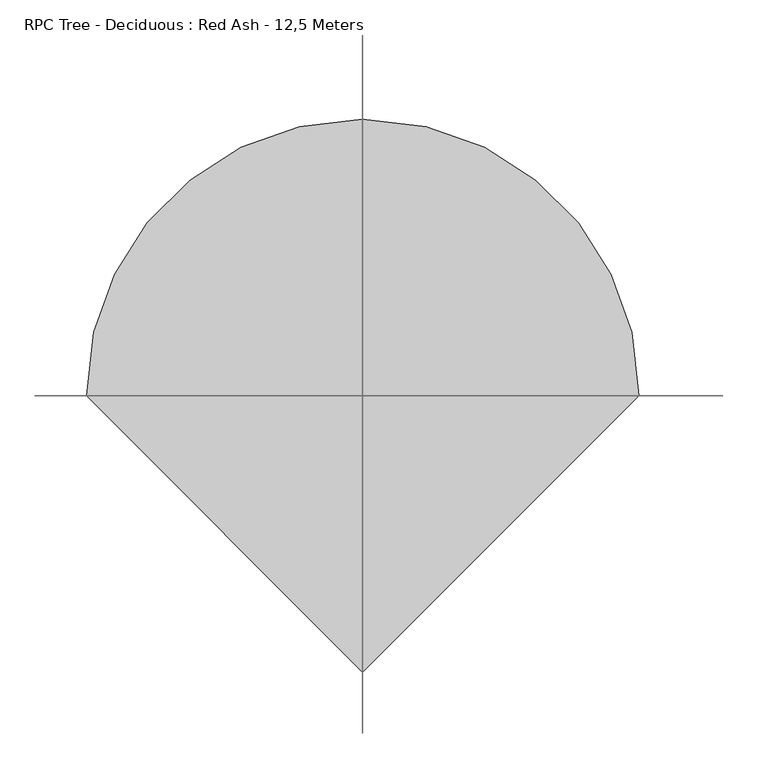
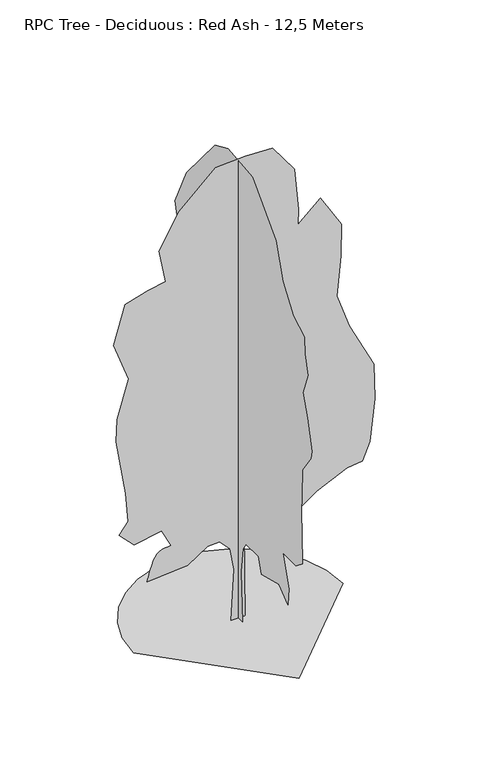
"""IFC4 building model written with IfcOpenShell, lengths in millimetres: geographic element geometry, RPC Tree - Deciduous : Red Ash - 12,5 Meters."""

from ifc_helpers import new_model, si_unit, origin, place, context, project, spatial, triangles, source, transform, mapped, element, save


def rpc_tree_deciduous_red_ash_12_5_meters_f1622f8d(model_context):
    return source(origin(), model_context, "Body", "Tessellation", [
        triangles([(-2698.4129082, 0.0, 0.0001015), (-2627.0754021, 618.2977976, 0.0001015), (-2423.908152, 1186.1054358, 0.0001015), (-2105.1777523, 1687.1544308, 0.0001015), (-1687.1547215, 2105.1781883, 0.0001015), (-1186.1051451, 2423.9075706, 0.0001015), (-618.2975069, 2627.0754021, 0.0001015), (0.000118, 2698.4129082, 0.0001015), (618.2978703, 2627.0754021, 0.0001015), (1186.1055084, 2423.9080067, 0.0001015), (1687.1547215, 2105.1777523, 0.0001015), (2105.1786243, 1687.1547215, 0.0001015), (2423.907716, 1186.1050724, 0.0001015), (2627.0754021, 618.2974342, 0.0001015), (2698.4129082, -0.0002359, 0.0001015), (-0.0003539, -2698.4129082, 0.0001015), (-1.76e-05, 168.7110502, 0.0), (4.11e-05, 166.0871369, 1959.5703609), (5.3e-05, 213.0609594, 2522.6425323), (1.1e-06, 719.8579502, 2556.045726), (-9.48e-05, 1601.6917694, 2425.0441292), (-0.0002305, 3122.8556053, 3196.6487755), (-0.0002318, 3299.2224564, 3769.841114), (-0.0002232, 3519.6810928, 4828.0419296), (-0.0001835, 3453.5438507, 5930.3345306), (-9.53e-05, 2854.9574226, 6793.0074554), (-9.1e-06, 2505.5752602, 8465.6082687), (-5.8e-06, 2814.2145607, 9656.0844406), (7.87e-05, 2307.1604816, 10714.2855469), (0.0002574, 1028.5012476, 12235.4496735), (0.0003257, 448.1638873, 12497.0383575), (0.0004367, -646.9842733, 12389.7716492), (0.000512, -1683.1395596, 11287.4784668), (0.0005166, -1991.7819122, 10361.5524261), (0.0005451, -2454.7428978, 9700.1765167), (0.0005901, -2961.7997383, 9435.6263855), (0.0005793, -2983.8454857, 8994.7085312), (0.000578, -3116.120842, 8487.6545975), (0.0005373, -2895.6622055, 7892.4165115), (0.0005409, -3094.0750946, 7319.224173), (0.0005379, -3292.487693, 6525.5737793), (0.0005267, -3248.3961983, 6305.1145615), (0.0004719, -2873.6167488, 5776.0137177), (0.0004477, -2849.9205208, 5048.5005661), (0.0004318, -2829.5246727, 4585.5378365), (0.000417, -2851.5707108, 4012.3460793), (0.0003957, -2873.6170395, 3218.6953949), (0.0003562, -2564.9745415, 2976.1907204), (0.0002965, -1991.7826389, 2976.1907204), (0.0002997, -2256.3329155, 2160.493998), (0.0002813, -2212.0982609, 1697.6452148), (0.0002488, -1809.4341763, 2014.1673191), (0.0001618, -1032.5831205, 1815.4652035), (0.0001607, -905.0390888, 2226.1498741), (0.0001031, -354.1876104, 2221.1328838), (8.24e-05, -214.5689524, 2014.9844204), (5.36e-05, -130.4943149, 1342.3279495), (1.92e-05, -183.9993612, 2.1e-05), (-181.8747816, -8e-06, 7.31e-05), (-109.4348355, 0.0001582, 1367.2927048), (-212.1182662, 0.000223, 1948.7262554), (-477.0142339, 0.0002461, 2239.6943962), (-793.3669081, 0.000231, 2228.8325592), (-1306.2135841, 0.0001689, 1895.9438667), (-2342.3687977, 0.0001131, 1807.7605865), (-2328.0358063, 0.0001205, 1864.7714962), (-2312.7386295, 0.0001282, 1923.7103405), (-2295.5135181, 0.0001365, 1986.5053448), (-2275.3957054, 0.0001455, 2055.0858971), (-2251.4220234, 0.0001557, 2131.3774612), (-2222.6274147, 0.0001672, 2217.3120415), (-2188.0482754, 0.0001803, 2314.8148109), (-2144.4708481, 0.000193, 2405.2480991), (-2090.4808296, 0.0002032, 2471.3854866), (-2027.8140152, 0.0002114, 2517.2762901), (-1958.2054733, 0.000218, 2546.9715706), (-1883.3911446, 0.0002234, 2564.5175926), (-1805.1055161, 0.0002279, 2573.9658531), (-1725.0846737, 0.0002321, 2579.3652328), (-1967.5889122, 0.0002793, 3064.3740005), (-2673.0566071, 0.0002327, 2932.0986443), (-3069.8815132, 0.0002626, 3328.9247131), (-2827.3771294, 0.0003074, 3615.5208824), (-2893.5143715, 0.0003991, 4409.1718575), (-3136.0187553, 0.0005646, 5886.2430359), (-3114.3058365, 0.0006385, 6497.9748825), (-2821.387088, 0.000769, 7485.7704025), (-3202.1565788, 0.0008771, 8531.7455109), (-2915.5601189, 0.0010105, 9545.8557037), (-2320.3226143, 0.0010576, 9722.2222641), (-1867.4756916, 0.0010869, 9802.1040161), (-2033.726881, 0.0011857, 10692.2392181), (-1526.6716393, 0.0013156, 11596.1200928), (-578.6996332, 0.0014596, 12455.9083099), (192.9046679, 0.0014985, 12499.9998047), (876.3266699, 0.0015258, 12477.953476), (1449.5189358, 0.0014589, 11706.349411), (1554.9082878, 0.0013288, 10576.636972), (1539.7750546, 0.0012788, 10162.3517944), (2110.8941185, 0.0013669, 10692.2392181), (2662.0407097, 0.0012832, 9788.3595062), (2639.9949623, 0.0011805, 8934.5627838), (2541.7608421, 0.0010499, 7875.0855927), (2860.4533081, 0.0009529, 6944.4441422), (3496.9882919, 0.0008313, 5690.9415848), (3517.282402, 0.0007194, 4745.4222633), (3389.5538612, 0.0005792, 3615.5203011), (3191.1412628, 0.0005153, 3152.5572807), (2794.3157753, 0.0004927, 3108.4654953), (2022.7109837, 0.0004169, 2755.7317932), (1339.2888908, 0.0003292, 2270.7231709), (422.3696769, 0.0003362, 2664.9751236), (152.6424997, 0.0002898, 2374.7288864), (170.8583392, 7.5e-06, 5.77e-05)], [[16, 15, 1], [15, 14, 1], [1, 14, 2], [14, 13, 2], [2, 13, 3], [3, 13, 4], [13, 12, 4], [12, 11, 4], [4, 11, 5], [5, 11, 6], [6, 11, 7], [7, 11, 8], [8, 11, 9], [9, 11, 10], [51, 50, 52], [58, 57, 17], [17, 57, 18], [57, 56, 18], [18, 56, 19], [56, 55, 19], [50, 49, 52], [53, 52, 54], [52, 49, 54], [36, 35, 37], [47, 46, 48], [48, 46, 49], [22, 21, 23], [21, 20, 23], [23, 20, 24], [24, 20, 25], [25, 20, 26], [20, 19, 26], [26, 19, 27], [46, 45, 49], [32, 31, 33], [31, 30, 33], [30, 29, 33], [33, 29, 34], [29, 28, 34], [28, 27, 34], [27, 19, 34], [34, 19, 35], [35, 19, 37], [37, 19, 38], [38, 19, 39], [39, 19, 40], [40, 19, 41], [41, 19, 42], [42, 19, 43], [43, 19, 44], [44, 19, 45], [45, 19, 49], [49, 19, 54], [19, 55, 54], [65, 64, 66], [66, 64, 67], [67, 64, 68], [100, 99, 101], [68, 64, 69], [69, 64, 70], [70, 64, 71], [59, 114, 60], [114, 113, 60], [60, 113, 61], [61, 113, 62], [71, 64, 72], [72, 64, 73], [73, 64, 74], [74, 64, 75], [75, 64, 76], [76, 64, 77], [77, 64, 78], [78, 64, 79], [64, 63, 79], [82, 81, 83], [81, 80, 83], [101, 99, 102], [108, 107, 109], [111, 110, 112], [89, 88, 90], [88, 87, 90], [90, 87, 91], [83, 80, 84], [96, 95, 97], [97, 95, 98], [95, 94, 98], [94, 93, 98], [93, 92, 98], [92, 91, 98], [98, 91, 99], [91, 87, 99], [99, 87, 102], [102, 87, 103], [103, 87, 104], [87, 86, 104], [86, 85, 104], [85, 84, 104], [84, 80, 104], [104, 80, 105], [105, 80, 106], [106, 80, 107], [107, 80, 109], [109, 80, 110], [110, 80, 112], [80, 79, 112], [79, 63, 112], [63, 62, 112], [62, 113, 112]], closed=False),
    ])


if __name__ == "__main__":
    model = new_model("IFC4")
    model_context = context("Model", 3, world=origin())
    ifc_project = project(units=[si_unit("LENGTHUNIT", "METRE", prefix="MILLI")], contexts=[model_context])
    site = spatial("IfcSite", under=ifc_project)
    building = spatial("IfcBuilding", under=site)
    placement = place(None, origin())
    rpc_tree_deciduous_red_ash_12_5_meters_shape = rpc_tree_deciduous_red_ash_12_5_meters_f1622f8d(model_context)
    element("IfcGeographicElement", 1, ObjectType="RPC Tree - Deciduous : Red Ash - 12,5 Meters", at=placement, inside=building, context=model_context, shape_type="MappedRepresentation", body=[
        mapped(rpc_tree_deciduous_red_ash_12_5_meters_shape, transform((0.0, 0.0, 0.0), x_axis=(1.0, 0.0, 0.0), y_axis=(0.0, 1.0, 0.0), z_axis=(0.0, 0.0, 1.0))),
    ])
    save(model, "model.ifc")
